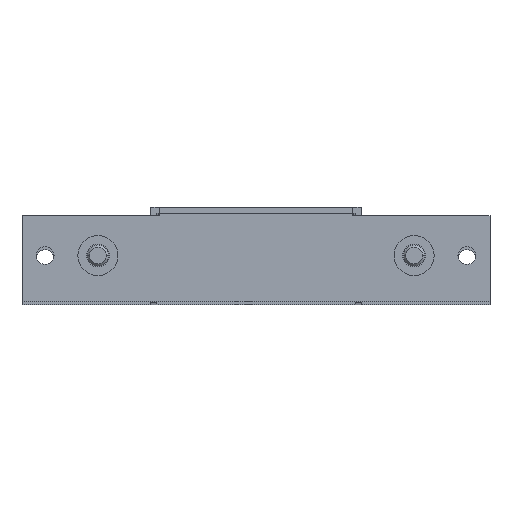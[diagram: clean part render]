
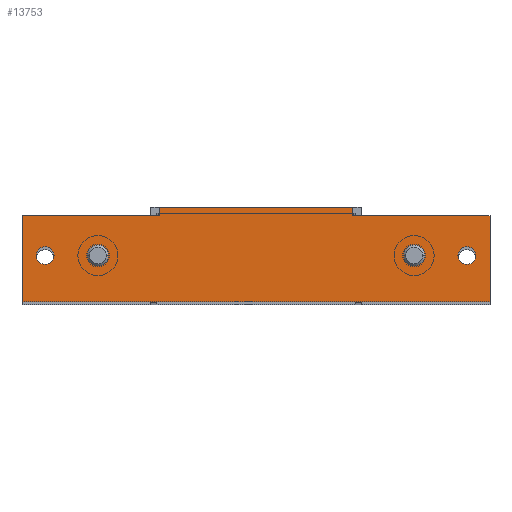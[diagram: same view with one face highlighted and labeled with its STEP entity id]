
A CAD part, top view. The second image highlights one B-rep face of the part: STEP entity #13753.
In plain terms, the highlighted planar face has unit normal (0, 0, 1).
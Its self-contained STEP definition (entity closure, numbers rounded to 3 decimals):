
#1402 = VERTEX_POINT('',#1403);
#1403 = CARTESIAN_POINT('',(-47.9,-11.5,198.5));
#1409 = EDGE_CURVE('',#1410,#1402,#1412,.T.);
#1410 = VERTEX_POINT('',#1411);
#1411 = CARTESIAN_POINT('',(-52.1,-11.5,198.5));
#1412 = CIRCLE('',#1413,2.1);
#1413 = AXIS2_PLACEMENT_3D('',#1414,#1415,#1416);
#1414 = CARTESIAN_POINT('',(-50.,-11.5,198.5));
#1415 = DIRECTION('',(0.,0.,1.));
#1416 = DIRECTION('',(1.,0.,-0.));
#1444 = VERTEX_POINT('',#1445);
#1445 = CARTESIAN_POINT('',(39.6,-11.5,198.5));
#1451 = EDGE_CURVE('',#1452,#1444,#1454,.T.);
#1452 = VERTEX_POINT('',#1453);
#1453 = CARTESIAN_POINT('',(35.4,-11.5,198.5));
#1454 = CIRCLE('',#1455,2.1);
#1455 = AXIS2_PLACEMENT_3D('',#1456,#1457,#1458);
#1456 = CARTESIAN_POINT('',(37.5,-11.5,198.5));
#1457 = DIRECTION('',(0.,0.,1.));
#1458 = DIRECTION('',(-1.,0.,0.));
#1486 = VERTEX_POINT('',#1487);
#1487 = CARTESIAN_POINT('',(52.1,-11.5,198.5));
#1493 = EDGE_CURVE('',#1494,#1486,#1496,.T.);
#1494 = VERTEX_POINT('',#1495);
#1495 = CARTESIAN_POINT('',(47.9,-11.5,198.5));
#1496 = CIRCLE('',#1497,2.1);
#1497 = AXIS2_PLACEMENT_3D('',#1498,#1499,#1500);
#1498 = CARTESIAN_POINT('',(50.,-11.5,198.5));
#1499 = DIRECTION('',(0.,0.,1.));
#1500 = DIRECTION('',(-1.,0.,0.));
#1528 = VERTEX_POINT('',#1529);
#1529 = CARTESIAN_POINT('',(-35.4,-11.5,198.5));
#1535 = EDGE_CURVE('',#1536,#1528,#1538,.T.);
#1536 = VERTEX_POINT('',#1537);
#1537 = CARTESIAN_POINT('',(-39.6,-11.5,198.5));
#1538 = CIRCLE('',#1539,2.1);
#1539 = AXIS2_PLACEMENT_3D('',#1540,#1541,#1542);
#1540 = CARTESIAN_POINT('',(-37.5,-11.5,198.5));
#1541 = DIRECTION('',(0.,0.,1.));
#1542 = DIRECTION('',(1.,0.,-0.));
#5651 = VERTEX_POINT('',#5652);
#5652 = CARTESIAN_POINT('',(-22.9,0.,198.5));
#5658 = EDGE_CURVE('',#5659,#5651,#5661,.T.);
#5659 = VERTEX_POINT('',#5660);
#5660 = CARTESIAN_POINT('',(22.9,0.,198.5));
#5661 = LINE('',#5662,#5663);
#5662 = CARTESIAN_POINT('',(-25.,0.,198.5));
#5663 = VECTOR('',#5664,1.);
#5664 = DIRECTION('',(-1.,0.,0.));
#13694 = VERTEX_POINT('',#13695);
#13695 = CARTESIAN_POINT('',(22.9,-2.1,198.5));
#13710 = EDGE_CURVE('',#13694,#5659,#13711,.T.);
#13711 = LINE('',#13712,#13713);
#13712 = CARTESIAN_POINT('',(22.9,-2.1,198.5));
#13713 = VECTOR('',#13714,1.);
#13714 = DIRECTION('',(-0.,1.,0.));
#13734 = VERTEX_POINT('',#13735);
#13735 = CARTESIAN_POINT('',(-22.9,-2.1,198.5));
#13741 = EDGE_CURVE('',#13734,#5651,#13742,.T.);
#13742 = LINE('',#13743,#13744);
#13743 = CARTESIAN_POINT('',(-22.9,0.,198.5));
#13744 = VECTOR('',#13745,1.);
#13745 = DIRECTION('',(0.,1.,0.));
#13753 = ADVANCED_FACE('',(#13754,#13764,#13774,#13784,#13794),#13837,
  .T.);
#13754 = FACE_BOUND('',#13755,.T.);
#13755 = EDGE_LOOP('',(#13756,#13763));
#13756 = ORIENTED_EDGE('',*,*,#13757,.F.);
#13757 = EDGE_CURVE('',#1402,#1410,#13758,.T.);
#13758 = CIRCLE('',#13759,2.1);
#13759 = AXIS2_PLACEMENT_3D('',#13760,#13761,#13762);
#13760 = CARTESIAN_POINT('',(-50.,-11.5,198.5));
#13761 = DIRECTION('',(0.,0.,1.));
#13762 = DIRECTION('',(1.,0.,-0.));
#13763 = ORIENTED_EDGE('',*,*,#1409,.F.);
#13764 = FACE_BOUND('',#13765,.T.);
#13765 = EDGE_LOOP('',(#13766,#13773));
#13766 = ORIENTED_EDGE('',*,*,#13767,.F.);
#13767 = EDGE_CURVE('',#1444,#1452,#13768,.T.);
#13768 = CIRCLE('',#13769,2.1);
#13769 = AXIS2_PLACEMENT_3D('',#13770,#13771,#13772);
#13770 = CARTESIAN_POINT('',(37.5,-11.5,198.5));
#13771 = DIRECTION('',(0.,0.,1.));
#13772 = DIRECTION('',(-1.,0.,0.));
#13773 = ORIENTED_EDGE('',*,*,#1451,.F.);
#13774 = FACE_BOUND('',#13775,.T.);
#13775 = EDGE_LOOP('',(#13776,#13783));
#13776 = ORIENTED_EDGE('',*,*,#13777,.F.);
#13777 = EDGE_CURVE('',#1486,#1494,#13778,.T.);
#13778 = CIRCLE('',#13779,2.1);
#13779 = AXIS2_PLACEMENT_3D('',#13780,#13781,#13782);
#13780 = CARTESIAN_POINT('',(50.,-11.5,198.5));
#13781 = DIRECTION('',(0.,0.,1.));
#13782 = DIRECTION('',(-1.,0.,0.));
#13783 = ORIENTED_EDGE('',*,*,#1493,.F.);
#13784 = FACE_BOUND('',#13785,.T.);
#13785 = EDGE_LOOP('',(#13786,#13793));
#13786 = ORIENTED_EDGE('',*,*,#13787,.F.);
#13787 = EDGE_CURVE('',#1528,#1536,#13788,.T.);
#13788 = CIRCLE('',#13789,2.1);
#13789 = AXIS2_PLACEMENT_3D('',#13790,#13791,#13792);
#13790 = CARTESIAN_POINT('',(-37.5,-11.5,198.5));
#13791 = DIRECTION('',(0.,0.,1.));
#13792 = DIRECTION('',(1.,0.,-0.));
#13793 = ORIENTED_EDGE('',*,*,#1535,.F.);
#13794 = FACE_BOUND('',#13795,.T.);
#13795 = EDGE_LOOP('',(#13796,#13806,#13814,#13820,#13821,#13822,#13823,
    #13831));
#13796 = ORIENTED_EDGE('',*,*,#13797,.F.);
#13797 = EDGE_CURVE('',#13798,#13800,#13802,.T.);
#13798 = VERTEX_POINT('',#13799);
#13799 = CARTESIAN_POINT('',(55.5,-22.5,198.5));
#13800 = VERTEX_POINT('',#13801);
#13801 = CARTESIAN_POINT('',(-55.5,-22.5,198.5));
#13802 = LINE('',#13803,#13804);
#13803 = CARTESIAN_POINT('',(-22.9,-22.5,198.5));
#13804 = VECTOR('',#13805,1.);
#13805 = DIRECTION('',(-1.,0.,-0.));
#13806 = ORIENTED_EDGE('',*,*,#13807,.F.);
#13807 = EDGE_CURVE('',#13808,#13798,#13810,.T.);
#13808 = VERTEX_POINT('',#13809);
#13809 = CARTESIAN_POINT('',(55.5,-2.1,198.5));
#13810 = LINE('',#13811,#13812);
#13811 = CARTESIAN_POINT('',(55.5,-19.5,198.5));
#13812 = VECTOR('',#13813,1.);
#13813 = DIRECTION('',(0.,-1.,0.));
#13814 = ORIENTED_EDGE('',*,*,#13815,.F.);
#13815 = EDGE_CURVE('',#13694,#13808,#13816,.T.);
#13816 = LINE('',#13817,#13818);
#13817 = CARTESIAN_POINT('',(22.9,-2.1,198.5));
#13818 = VECTOR('',#13819,1.);
#13819 = DIRECTION('',(1.,0.,0.));
#13820 = ORIENTED_EDGE('',*,*,#13710,.T.);
#13821 = ORIENTED_EDGE('',*,*,#5658,.T.);
#13822 = ORIENTED_EDGE('',*,*,#13741,.F.);
#13823 = ORIENTED_EDGE('',*,*,#13824,.T.);
#13824 = EDGE_CURVE('',#13734,#13825,#13827,.T.);
#13825 = VERTEX_POINT('',#13826);
#13826 = CARTESIAN_POINT('',(-55.5,-2.1,198.5));
#13827 = LINE('',#13828,#13829);
#13828 = CARTESIAN_POINT('',(-22.9,-2.1,198.5));
#13829 = VECTOR('',#13830,1.);
#13830 = DIRECTION('',(-1.,0.,0.));
#13831 = ORIENTED_EDGE('',*,*,#13832,.T.);
#13832 = EDGE_CURVE('',#13825,#13800,#13833,.T.);
#13833 = LINE('',#13834,#13835);
#13834 = CARTESIAN_POINT('',(-55.5,-19.5,198.5));
#13835 = VECTOR('',#13836,1.);
#13836 = DIRECTION('',(0.,-1.,-0.));
#13837 = PLANE('',#13838);
#13838 = AXIS2_PLACEMENT_3D('',#13839,#13840,#13841);
#13839 = CARTESIAN_POINT('',(0.,0.,
    198.5));
#13840 = DIRECTION('',(0.,0.,1.));
#13841 = DIRECTION('',(0.,-1.,0.));
